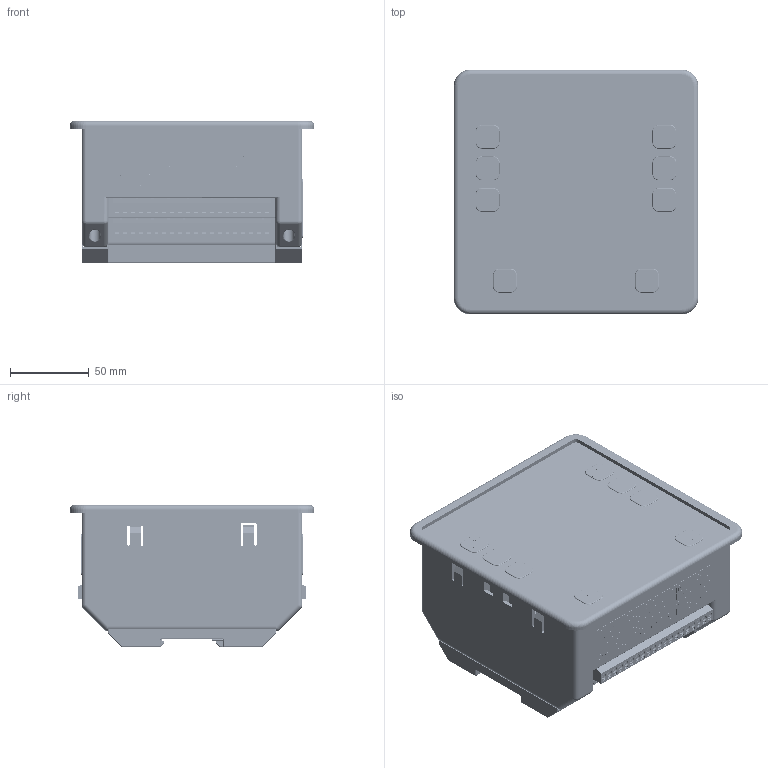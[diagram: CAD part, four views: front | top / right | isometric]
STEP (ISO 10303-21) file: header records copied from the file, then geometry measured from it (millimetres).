
FILE_DESCRIPTION (( 'STEP AP203' ), '1' );
FILE_NAME ('ﾁﾀﾂﾐ OptiSave H-243-ﾓ3 ﾃﾆﾈﾊ.648486.010.STEP', '2019-07-08T07:04:44', ( '' ), ( '' ), 'SwSTEP 2.0', 'SolidWorks 2018', '' );
FILE_SCHEMA (( 'CONFIG_CONTROL_DESIGN' ));
Products named in the file (1): ﾁﾀﾂﾐ OptiSave H-243-ﾓ3 ﾃﾆﾈﾊ.648486.010
Bounding box: 155 x 155 x 90 mm (x, y, z)
Volume: 274980.9 mm3; surface area: 377758.5 mm2
Topology: 46 solids, 48 shells, 18345 faces, 47775 edges, 30588 vertices
Faces by surface type: plane 9456, bspline 4429, cylinder 2675, torus 882, cone 496, sphere 407
Entity records: 735149 total; most frequent: CARTESIAN_POINT 312487, ORIENTED_EDGE 94928, DIRECTION 73752, EDGE_CURVE 47464, VERTEX_POINT 30578, VECTOR 30382, LINE 30382, AXIS2_PLACEMENT_3D 21685
